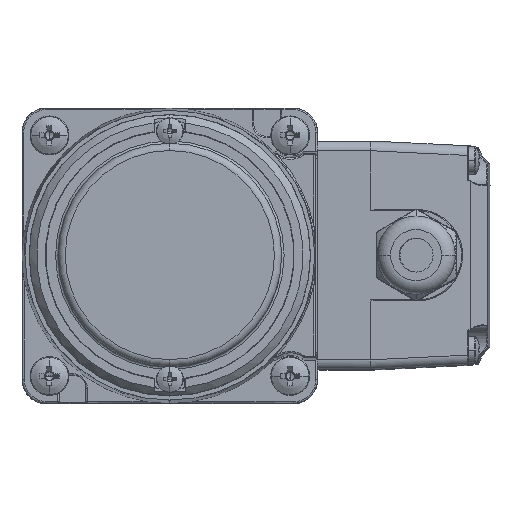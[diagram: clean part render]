
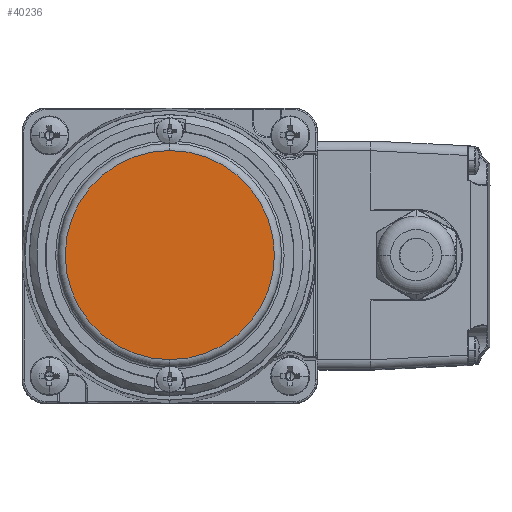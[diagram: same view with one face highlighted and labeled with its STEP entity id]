
A CAD part, top view. The second image highlights one B-rep face of the part: STEP entity #40236.
In plain terms, the highlighted planar face has unit normal (0, 0, 1) as drawn and (-1, 0, 0) by its records, which use the part's own axes.
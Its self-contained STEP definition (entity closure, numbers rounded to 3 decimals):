
#4566 = CARTESIAN_POINT ( 'NONE',  ( -87.75, 0., 0. ) ) ;
#6554 = DIRECTION ( 'NONE',  ( 1., 0., 0. ) ) ;
#7723 = DIRECTION ( 'NONE',  ( 1., 0., 0. ) ) ;
#8666 = EDGE_CURVE ( 'NONE', #10078, #35530, #12130, .T. ) ;
#8832 = AXIS2_PLACEMENT_3D ( 'NONE', #4566, #23664, #10801 ) ;
#9252 = DIRECTION ( 'NONE',  ( 0., 0., -1. ) ) ;
#10078 = VERTEX_POINT ( 'NONE', #13455 ) ;
#10801 = DIRECTION ( 'NONE',  ( 0., 0., 1. ) ) ;
#11017 = PLANE ( 'NONE',  #8832 ) ;
#11186 = CARTESIAN_POINT ( 'NONE',  ( -87.75, 0., -21.5 ) ) ;
#12130 = CIRCLE ( 'NONE', #40631, 21.5 ) ;
#13455 = CARTESIAN_POINT ( 'NONE',  ( -87.75, 0., 21.5 ) ) ;
#14251 = EDGE_CURVE ( 'NONE', #35530, #10078, #17103, .T. ) ;
#17103 = CIRCLE ( 'NONE', #20405, 21.5 ) ;
#17695 = CARTESIAN_POINT ( 'NONE',  ( -87.75, 0., 0. ) ) ;
#18599 = CARTESIAN_POINT ( 'NONE',  ( -87.75, 0., 0. ) ) ;
#20405 = AXIS2_PLACEMENT_3D ( 'NONE', #18599, #6554, #9252 ) ;
#22669 = EDGE_LOOP ( 'NONE', ( #24099, #27093 ) ) ;
#23664 = DIRECTION ( 'NONE',  ( -1., 0., 0. ) ) ;
#24099 = ORIENTED_EDGE ( 'NONE', *, *, #14251, .F. ) ;
#27093 = ORIENTED_EDGE ( 'NONE', *, *, #8666, .F. ) ;
#27232 = DIRECTION ( 'NONE',  ( 0., 0., 1. ) ) ;
#35530 = VERTEX_POINT ( 'NONE', #11186 ) ;
#36724 = FACE_OUTER_BOUND ( 'NONE', #22669, .T. ) ;
#40236 = ADVANCED_FACE ( 'NONE', ( #36724 ), #11017, .T. ) ;
#40631 = AXIS2_PLACEMENT_3D ( 'NONE', #17695, #7723, #27232 ) ;
